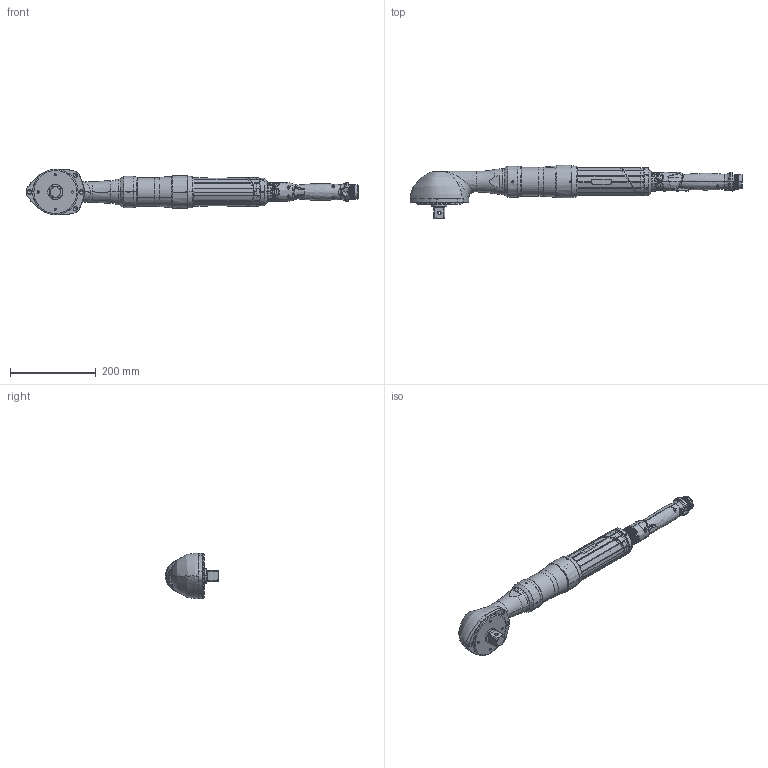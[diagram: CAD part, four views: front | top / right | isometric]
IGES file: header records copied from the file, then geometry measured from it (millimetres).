
Start section:  PTC IGES file: 6151656860.igs
Global section: file name: 6151656860.igs; native system: Creo Parametric by PTC Inc.; preprocessor: 2015380; author: greextsd; organization: Unknown; date: 20160315.135411; units: millimetre
Bounding box: 774.1 x 124.1 x 106.99 mm (x, y, z)
Volume: 952756.9 mm3; surface area: 368525.3 mm2
Topology: 7 solids, 9 shells, 2401 faces, 6141 edges, 3780 vertices
Faces by surface type: revolution 1302, bspline 1014, extrusion 85
